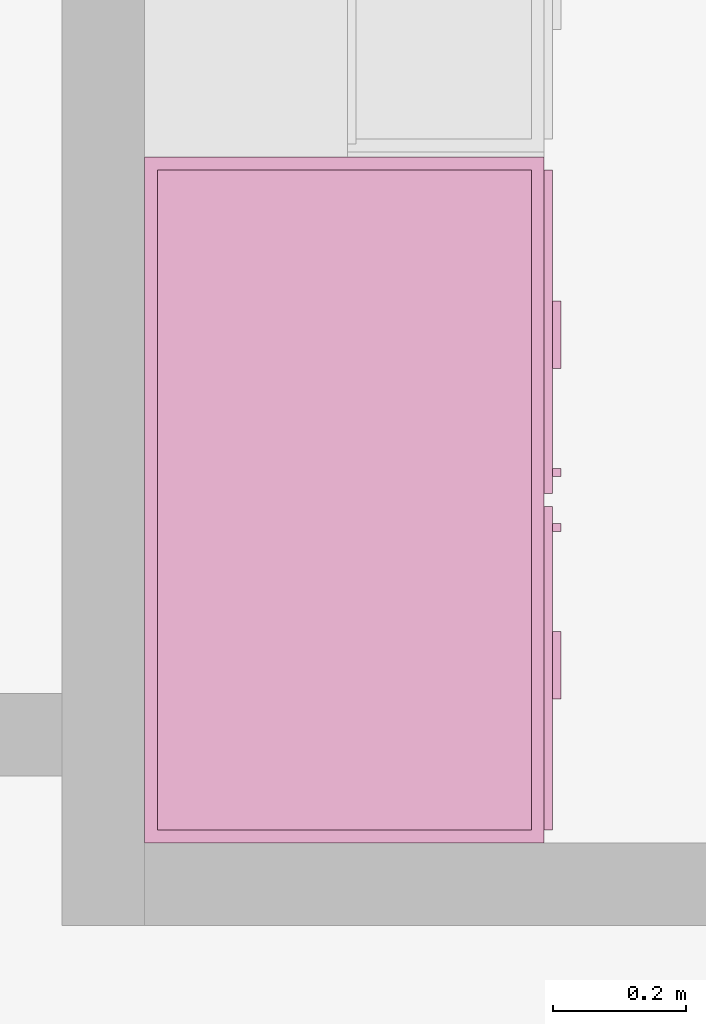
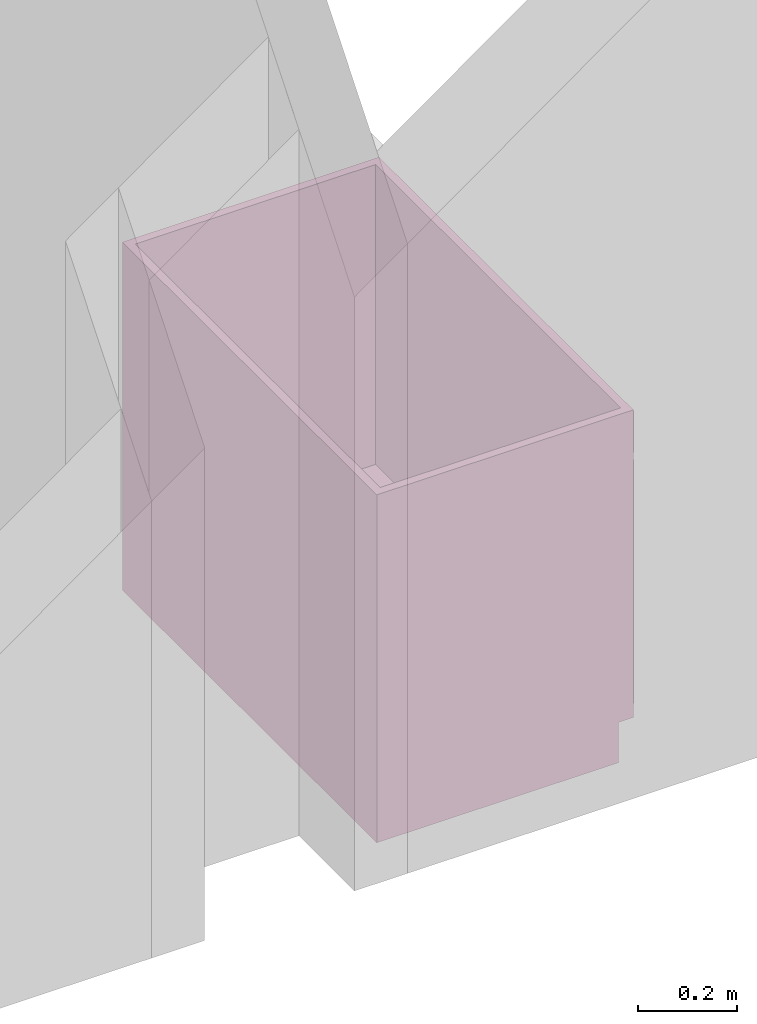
# One storey, part 83 of 87: 1 furnishing.
"""IFC2X3 building model written with IfcOpenShell, lengths in metres."""

from ifc_helpers import new_model, entity, si_unit, converted_unit, frame, origin, place, context, project, spatial, face_set, surface_model, source, transform, mapped, type_object, type_shapes, element, save


model = new_model("IFC2X3")

# Units and contexts
model_context = context("Model", 3, precision=1e-09, world=origin())
plan_context = context("Plan", 3, precision=1e-09, world=origin())
ifc_project = project(units=[si_unit("LENGTHUNIT", "METRE"), si_unit("AREAUNIT", "SQUARE_METRE"), si_unit("VOLUMEUNIT", "CUBIC_METRE"), converted_unit("PLANEANGLEUNIT", "DEGREE", entity("IfcRatioMeasure", 0.01745329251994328), si_unit("PLANEANGLEUNIT", "RADIAN"), dimensions=[0, 0, 0, 0, 0, 0, 0]), si_unit("TIMEUNIT", "SECOND")], contexts=[model_context, plan_context])

# Site, building, storey, space
site_placement = place(None, origin())
site = spatial("IfcSite", under=ifc_project, at=site_placement, Name="Default", CompositionType="ELEMENT")
building_placement = place(site_placement, origin())
building = spatial("IfcBuilding", under=site, at=building_placement, CompositionType="ELEMENT")
storey_placement = place(building_placement, origin())
storey = spatial("IfcBuildingStorey", under=building, at=storey_placement, Name="First Floor", CompositionType="ELEMENT", Elevation=-3.531500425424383e-13)
space_placement = place(storey_placement, origin())
space = spatial("IfcSpace", under=storey, at=space_placement, Name="1D06", CompositionType="ELEMENT", InteriorOrExteriorSpace="INTERNAL")

# Furnishing
furniture_type = type_object("IfcFurnitureType", Name="1030mm", AssemblyPlace="NOTDEFINED")
shared_shape = source(origin(), model_context, "Body", "SurfaceModel", [
    surface_model("IfcFaceBasedSurfaceModel", [(1.010949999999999, 0.04445000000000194, 0.86000000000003), (1.010949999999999, 0.04445000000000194, 0.09999999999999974), (0.01905000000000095, 0.04445000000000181, 0.09999999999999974), (0.01905000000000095, 0.04445000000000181, 0.86000000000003), (1.03, 0.02540000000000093, 0.8600000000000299), (0.0, 0.02540000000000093, 0.8600000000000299), (1.03, 0.02540000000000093, 0.09999999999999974), (0.0, 0.025400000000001, 0.0999999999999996), (0.01905000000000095, 0.6063499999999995, 0.86000000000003), (0.01905000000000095, 0.6063499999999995, 0.09999999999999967), (0.01905000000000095, 0.06040000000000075, 0.09999999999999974), (0.0, 0.6254000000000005, 0.8600000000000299), (0.0, 0.6254000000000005, 0.0), (0.0, 0.06040000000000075, 0.0), (0.0, 0.06040000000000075, 0.09999999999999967), (1.010949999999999, 0.6063499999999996, 0.86000000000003), (1.010949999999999, 0.6063499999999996, 0.09999999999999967), (1.03, 0.6254000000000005, 0.8600000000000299), (1.03, 0.6254000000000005, 0.0), (1.010949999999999, 0.06040000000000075, 0.09999999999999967), (1.03, 0.06040000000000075, 0.09999999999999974), (1.03, 0.06040000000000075, 0.0), (0.3178250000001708, 0.0, 0.8155500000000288), (0.3178250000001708, 0.0, 0.8028500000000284), (0.2162250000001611, 0.0, 0.8028500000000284), (0.2162250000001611, 0.0, 0.8155500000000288), (0.8137750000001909, 0.0, 0.8155500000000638), (0.8137750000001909, 0.0, 0.8028500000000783), (0.7121750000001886, 0.0, 0.8028500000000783), (0.7121750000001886, 0.0, 0.8155500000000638), (0.4800750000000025, 0.0, 0.6822000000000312), (0.4800750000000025, 0.0, 0.5806000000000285), (0.4673750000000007, 0.0, 0.5806000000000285), (0.4673750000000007, 0.0, 0.6822000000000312), (0.5626249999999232, 0.0, 0.6822000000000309), (0.5626249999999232, 0.0, 0.5806000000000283), (0.5499249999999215, 0.0, 0.5806000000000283), (0.5499249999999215, 0.0, 0.6822000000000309), (0.3178250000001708, 0.01270000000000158, 0.8155500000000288), (0.3178250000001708, 0.01270000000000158, 0.8028500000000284), (0.2162250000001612, 0.01270000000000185, 0.8028500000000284), (0.2162250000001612, 0.01270000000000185, 0.8155500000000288), (0.8137750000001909, 0.01269999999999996, 0.8155500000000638), (0.8137750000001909, 0.01269999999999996, 0.8028500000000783), (0.7121750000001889, 0.01270000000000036, 0.8028500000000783), (0.7121750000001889, 0.01270000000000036, 0.8155500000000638), (0.4800750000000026, 0.01270000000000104, 0.6822000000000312), (0.4800750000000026, 0.01270000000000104, 0.5806000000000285), (0.4673750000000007, 0.01270000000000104, 0.5806000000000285), (0.4673750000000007, 0.01270000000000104, 0.6822000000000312), (0.5626249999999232, 0.01270000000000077, 0.6822000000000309), (0.5626249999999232, 0.01270000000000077, 0.5806000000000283), (0.5499249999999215, 0.01270000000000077, 0.5806000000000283), (0.5499249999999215, 0.01270000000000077, 0.6822000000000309), (0.5054749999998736, 0.0127000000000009, 0.8409500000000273), (0.5054749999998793, 0.0127000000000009, 0.7393500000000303), (0.01905000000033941, 0.01270000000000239, 0.7393500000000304), (0.01905000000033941, 0.01270000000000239, 0.8409500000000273), (1.010950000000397, 0.01269999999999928, 0.8409500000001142), (1.010950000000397, 0.01269999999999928, 0.7393500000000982), (0.5245249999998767, 0.01270000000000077, 0.7393500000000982), (0.5245249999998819, 0.01270000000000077, 0.8409500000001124), (0.5054749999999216, 0.0127000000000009, 0.7203000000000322), (0.505474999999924, 0.0127000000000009, 0.1190499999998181), (0.01905000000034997, 0.01270000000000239, 0.1190499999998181), (0.01905000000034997, 0.01270000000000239, 0.7203000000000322), (1.010950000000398, 0.01269999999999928, 0.7203000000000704), (1.010950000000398, 0.01269999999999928, 0.1190499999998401), (0.5245249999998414, 0.01270000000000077, 0.1190499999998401), (0.5245249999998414, 0.01270000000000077, 0.7203000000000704), (0.5054749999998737, 0.02540000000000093, 0.8409500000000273), (0.5054749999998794, 0.02540000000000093, 0.7393500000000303), (0.01905000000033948, 0.02540000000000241, 0.7393500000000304), (0.01905000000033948, 0.02540000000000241, 0.8409500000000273), (1.010950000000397, 0.02539999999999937, 0.8409500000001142), (1.010950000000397, 0.02539999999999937, 0.7393500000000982), (0.5245249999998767, 0.02540000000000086, 0.7393500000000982), (0.524524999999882, 0.02540000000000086, 0.8409500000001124), (0.5054749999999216, 0.02540000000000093, 0.7203000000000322), (0.5054749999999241, 0.02540000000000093, 0.1190499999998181), (0.01905000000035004, 0.02540000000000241, 0.1190499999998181), (0.01905000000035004, 0.02540000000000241, 0.7203000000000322), (1.010950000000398, 0.02539999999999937, 0.7203000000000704), (1.010950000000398, 0.02539999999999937, 0.1190499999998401), (0.5245249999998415, 0.02540000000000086, 0.1190499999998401), (0.5245249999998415, 0.02540000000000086, 0.7203000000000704), (1.010949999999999, 0.6063499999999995, 0.1190499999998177), (1.010949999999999, 0.04445000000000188, 0.1190499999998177), (0.01905000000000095, 0.04445000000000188, 0.1190499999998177), (0.01905000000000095, 0.6063499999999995, 0.1190499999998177), (1.010949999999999, 0.6063499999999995, 0.09999999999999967), (1.010949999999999, 0.04445000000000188, 0.09999999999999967), (0.01905000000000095, 0.04445000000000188, 0.09999999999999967), (0.01905000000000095, 0.6063499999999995, 0.09999999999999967)], [face_set([[[0, 1, 2, 3]], [[0, 4, 5, 3]], [[4, 6, 7, 5]], [[2, 1, 6, 7]], [[3, 8, 9, 10, 2]], [[5, 11, 8, 3]], [[7, 5, 11, 12, 13, 14]], [[2, 7, 14, 10]], [[8, 15, 16, 9]], [[11, 17, 15, 8]], [[12, 11, 17, 18]], [[1, 19, 16, 15, 0]], [[0, 15, 17, 4]], [[4, 6, 20, 21, 18, 17]], [[6, 1, 19, 20]], [[10, 9, 16, 19]], [[18, 21, 13, 12]], [[13, 14, 10, 19, 20, 21]]]), face_set([[[22, 23, 24, 25]], [[26, 27, 28, 29]], [[30, 31, 32, 33]], [[34, 35, 36, 37]], [[38, 39, 40, 41]], [[42, 43, 44, 45]], [[46, 47, 48, 49]], [[50, 51, 52, 53]], [[25, 41, 38, 22]], [[24, 40, 41, 25]], [[23, 24, 40, 39]], [[22, 23, 39, 38]], [[29, 45, 42, 26]], [[28, 44, 45, 29]], [[27, 28, 44, 43]], [[26, 27, 43, 42]], [[33, 49, 46, 30]], [[32, 48, 49, 33]], [[31, 32, 48, 47]], [[30, 31, 47, 46]], [[37, 53, 50, 34]], [[36, 52, 53, 37]], [[35, 36, 52, 51]], [[34, 35, 51, 50]]]), face_set([[[54, 55, 56, 57]], [[58, 59, 60, 61]], [[62, 63, 64, 65]], [[66, 67, 68, 69]], [[70, 71, 72, 73]], [[74, 75, 76, 77]], [[78, 79, 80, 81]], [[82, 83, 84, 85]], [[57, 73, 70, 54]], [[56, 57, 73, 72]], [[55, 56, 72, 71]], [[54, 55, 71, 70]], [[61, 77, 74, 58]], [[60, 76, 77, 61]], [[59, 60, 76, 75]], [[58, 59, 75, 74]], [[65, 81, 78, 62]], [[64, 65, 81, 80]], [[63, 64, 80, 79]], [[62, 63, 79, 78]], [[69, 85, 82, 66]], [[68, 84, 85, 69]], [[67, 68, 84, 83]], [[66, 67, 83, 82]]]), face_set([[[86, 87, 88, 89]], [[90, 91, 92, 93]], [[89, 86, 90, 93]], [[88, 89, 93, 92]], [[87, 91, 92, 88]], [[86, 87, 91, 90]]])]),
])
type_shapes(furniture_type, [shared_shape])
furnishing_placement = place(space_placement, frame((-25.29060000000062, 40.78450089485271, 0.0), z_axis=(0.0, 0.0, 1.0), x_axis=(0.0, 1.0, 0.0)))
element("IfcFurnishingElement", 1, at=furnishing_placement, inside=space, type_object=furniture_type, Name="M_Base Cabinet-Double Door & 2 Drawer:1030mm:1030mm", ObjectType="1030mm", context=model_context, shape_type="MappedRepresentation", body=[
    mapped(shared_shape, transform((0.0, 0.0, 0.0), scale=1.0)),
])

save(model, "model.ifc")
